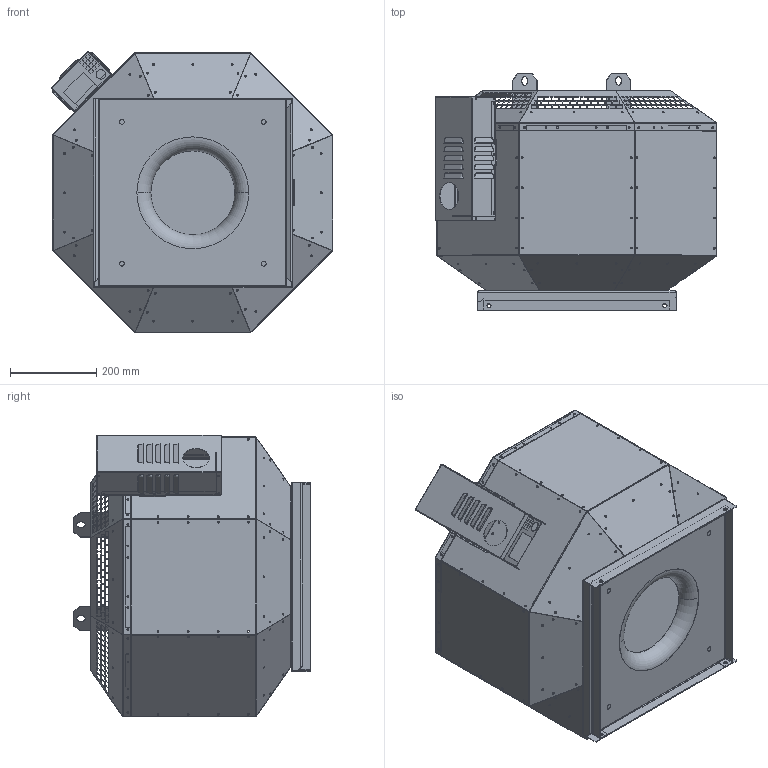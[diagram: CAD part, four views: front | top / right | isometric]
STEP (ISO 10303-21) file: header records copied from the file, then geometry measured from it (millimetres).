
FILE_DESCRIPTION (( 'STEP AP203' ), '1' );
FILE_NAME ('145037-01_DVNI315D230_step.step', '2018-08-10T10:27:49', ( '' ), ( '' ), 'SwSTEP 2.0', 'SolidWorks 2017', '' );
FILE_SCHEMA (( 'CONFIG_CONTROL_DESIGN' ));
Length unit declared in the file: millimetre
Products named in the file (2): 145037-01_DVNI315D230_step
Bounding box: 654.75 x 550.51 x 654.75 mm (x, y, z)
Surface area: 3334615.2 mm2 (no closed solid volume)
Topology: 0 solids, 32 shells, 1654 faces, 8918 edges, 6649 vertices
Faces by surface type: plane 1233, cylinder 343, bspline 76, torus 2
Entity records: 107367 total; most frequent: CARTESIAN_POINT 37109, DIRECTION 13000, ORIENTED_EDGE 12578, EDGE_CURVE 8918, LINE 7056, VECTOR 7056, VERTEX_POINT 6649, EDGE_LOOP 3343
